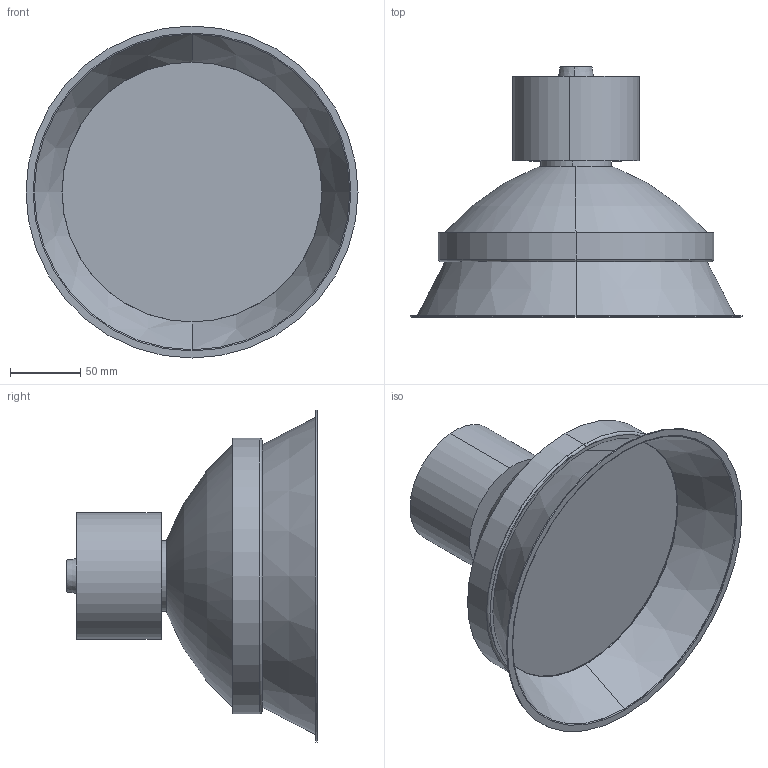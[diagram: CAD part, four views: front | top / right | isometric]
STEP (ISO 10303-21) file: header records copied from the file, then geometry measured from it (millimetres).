
FILE_DESCRIPTION (( 'STEP AP214' ), '1' );
FILE_NAME ('KONO PLUS-24W.STEP', '2017-08-22T11:58:01', ( 'Ofitecnic3' ), ( 'Microsoft' ), 'SwSTEP 2.0', 'SolidWorks 2016', '' );
FILE_SCHEMA (( 'AUTOMOTIVE_DESIGN' ));
Length unit declared in the file: millimetre
Products named in the file (5): KONO PLUS-24W; Cuerpo Kono Plus-BIM; Difusor RINGO PLUS ﾘ  193 mm BIM; reflector 530_PLUS-BIM_reflector530Plus_port.EVO; MODULOS VS-BIM_24W
Assembly tree (4 placements, depth 2):
  KONO PLUS-24W
    Cuerpo Kono Plus-BIM
    Difusor RINGO PLUS ﾘ  193 mm BIM
    reflector 530_PLUS-BIM_reflector530Plus_port.EVO
    MODULOS VS-BIM_24W
Bounding box: 236.22 x 178.03 x 236.22 mm (x, y, z)
Volume: 534146.1 mm3; surface area: 276856.7 mm2
Topology: 4 solids, 4 shells, 56 faces, 106 edges, 64 vertices
Faces by surface type: torus 20, cylinder 16, plane 14, cone 6
Entity records: 1746 total; most frequent: DIRECTION 316, CARTESIAN_POINT 233, ORIENTED_EDGE 212, AXIS2_PLACEMENT_3D 147, EDGE_CURVE 106, CIRCLE 84, EDGE_LOOP 64, VERTEX_POINT 64
